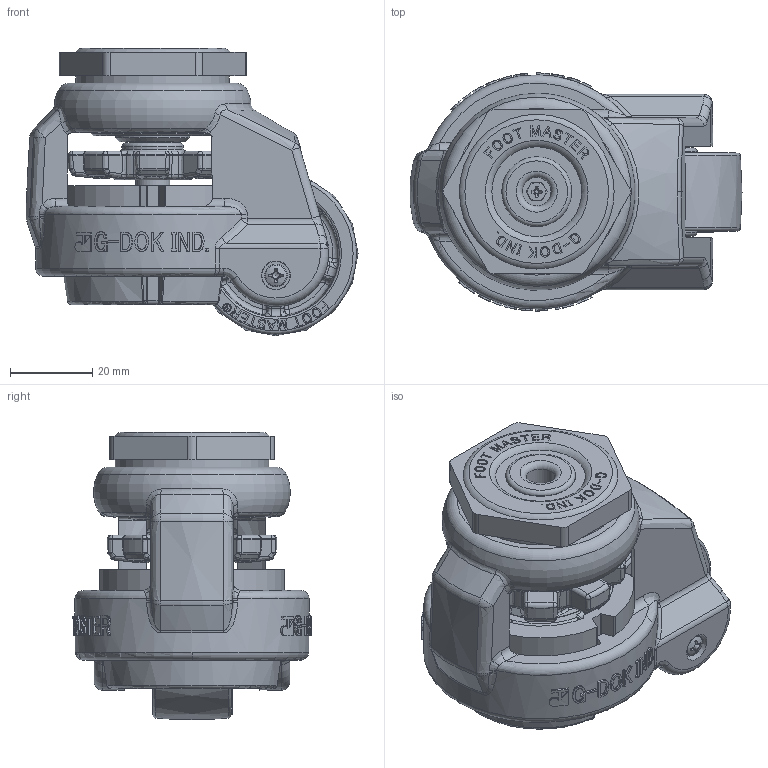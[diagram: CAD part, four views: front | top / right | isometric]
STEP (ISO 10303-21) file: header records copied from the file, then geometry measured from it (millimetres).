
FILE_DESCRIPTION(/* description */ (''),/* implementation_level */ '2;1');
FILE_NAME(/* name */ 'Z:\1.기술연구소\★★도면정리_20220308\GD-series_오창근편집본\도면높이보정용\1. GD, GDN-40\3D\관리본\STEP\GD-40-S-NYN_H70_W40.stp',/* time_stamp */ '2023-07-27T19:47:49+09:00',/* author */ ('admin'),/* organization */ (''),/* preprocessor_version */ 'ST-DEVELOPER v18.1',/* originating_system */ 'Autodesk Inventor 2021',/* authorisation */ '');
FILE_SCHEMA (('AUTOMOTIVE_DESIGN { 1 0 10303 214 3 1 1 }'));
Length unit declared in the file: millimetre
Products named in the file (1): 3. GD-40-S-NYN_H70_W40_Shrinkwrap_1
Bounding box: 80.86 x 58 x 69.96 mm (x, y, z)
Volume: 121039.1 mm3; surface area: 43371.4 mm2
Topology: 3 solids, 4 shells, 2934 faces, 7353 edges, 4472 vertices
Faces by surface type: bspline 1167, plane 976, cylinder 290, torus 205, cone 152, sphere 144
Full cylindrical faces by diameter (mm): 2.9 x2, 5.5 x2, 7 x2, 7.1 x1, 8 x1, 8.4 x1, 10.945 x1, 11.542 x1, 14.9 x1, 15.2 x1, 17 x1, 18 x1, 30 x1, 37.383 x1
Entity records: 110482 total; most frequent: CARTESIAN_POINT 45096, ORIENTED_EDGE 14514, DIRECTION 10307, EDGE_CURVE 7257, VERTEX_POINT 4472, AXIS2_PLACEMENT_3D 3753, EDGE_LOOP 3086, FACE_OUTER_BOUND 2934
